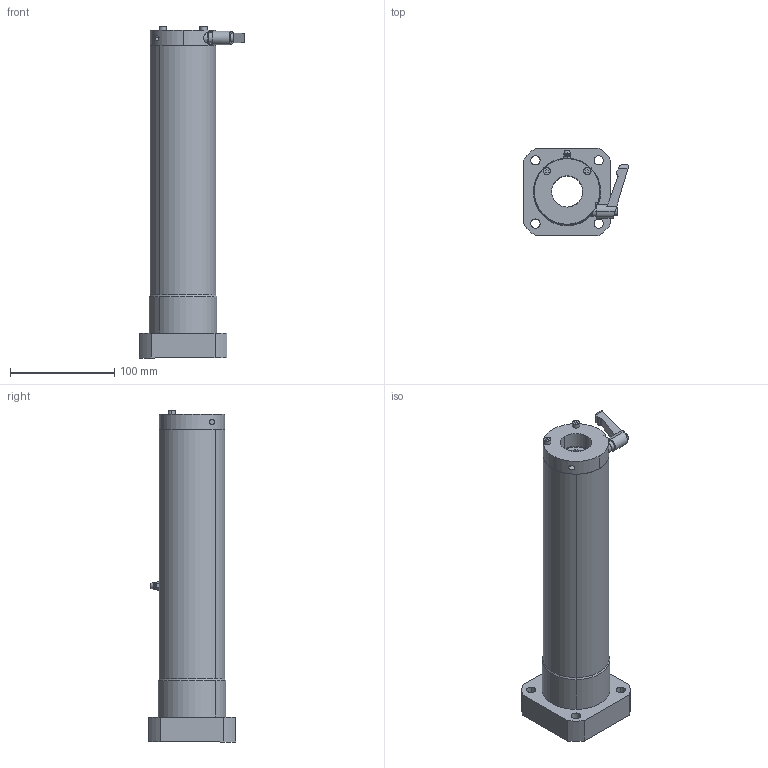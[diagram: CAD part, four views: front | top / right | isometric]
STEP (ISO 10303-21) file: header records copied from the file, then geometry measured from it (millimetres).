
FILE_DESCRIPTION (( 'STEP AP214' ), '1' );
FILE_NAME ('LFWL30B-C.STEP', '2023-06-27T02:37:19', ( '' ), ( '' ), 'SwSTEP 2.0', 'SolidWorks 2019', '' );
FILE_SCHEMA (( 'AUTOMOTIVE_DESIGN' ));
Length unit declared in the file: millimetre
Products named in the file (3): “ÁSCK3015CO-S4.5; LFWL30B; LFWL30B-C
Assembly tree (2 placements, depth 2):
  LFWL30B-C
    LFWL30B
    “ÁSCK3015CO-S4.5
Bounding box: 101.1 x 84 x 319 mm (x, y, z)
Volume: 847030.6 mm3; surface area: 128195.8 mm2
Topology: 3 solids, 9 shells, 238 faces, 599 edges, 377 vertices
Faces by surface type: cylinder 86, plane 71, bspline 47, cone 22, torus 8, sphere 4
Entity records: 10506 total; most frequent: CARTESIAN_POINT 2305, DIRECTION 1243, ORIENTED_EDGE 1194, EDGE_CURVE 597, AXIS2_PLACEMENT_3D 516, VERTEX_POINT 376, CIRCLE 320, EDGE_LOOP 285
